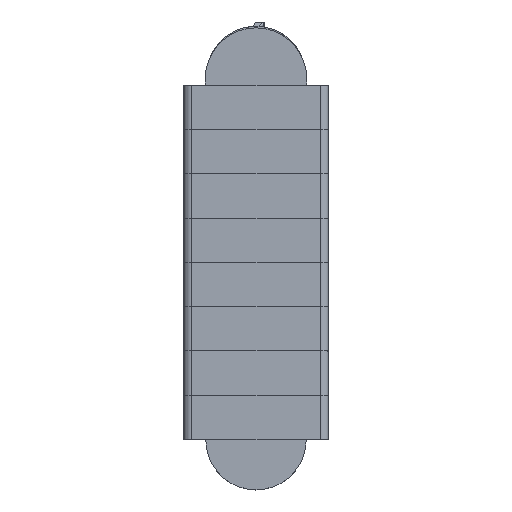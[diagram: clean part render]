
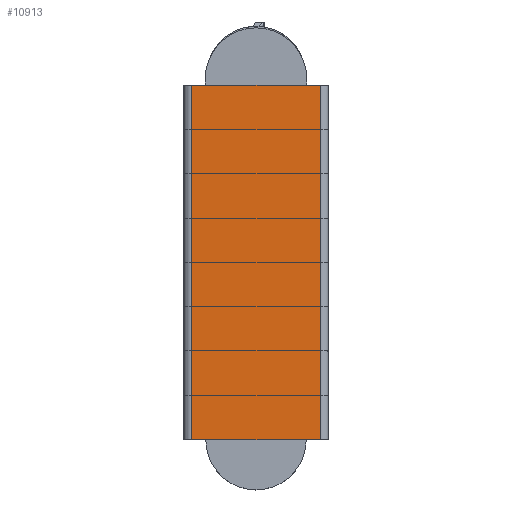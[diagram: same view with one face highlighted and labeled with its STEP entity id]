
A CAD part, top view. The second image highlights one B-rep face of the part: STEP entity #10913.
In plain terms, the highlighted planar face has unit normal (0, 0, 1).
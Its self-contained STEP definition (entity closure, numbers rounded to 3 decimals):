
#121 = CARTESIAN_POINT ( 'NONE',  ( 50.648, 139.7, 46.457 ) ) ;
#1065 = CARTESIAN_POINT ( 'NONE',  ( -50.648, 139.7, 46.457 ) ) ;
#2051 = DIRECTION ( 'NONE',  ( 1., 0., 0. ) ) ;
#2163 = EDGE_CURVE ( 'NONE', #26392, #16196, #21390, .T. ) ;
#2585 = DIRECTION ( 'NONE',  ( 0., -1., 0. ) ) ;
#4081 = ORIENTED_EDGE ( 'NONE', *, *, #21771, .F. ) ;
#4101 = CARTESIAN_POINT ( 'NONE',  ( 50.648, -139.7, 46.457 ) ) ;
#5744 = EDGE_CURVE ( 'NONE', #26392, #15635, #16789, .T. ) ;
#5836 = DIRECTION ( 'NONE',  ( 0., 0., -1. ) ) ;
#6283 = LINE ( 'NONE', #121, #22569 ) ;
#6536 = VECTOR ( 'NONE', #2051, 1000. ) ;
#8535 = LINE ( 'NONE', #24942, #6536 ) ;
#9830 = CARTESIAN_POINT ( 'NONE',  ( -50.648, 139.7, 46.457 ) ) ;
#10585 = DIRECTION ( 'NONE',  ( 0., -1., 0. ) ) ;
#10913 = ADVANCED_FACE ( 'NONE', ( #24877 ), #20058, .F. ) ;
#11694 = AXIS2_PLACEMENT_3D ( 'NONE', #9830, #5836, #26777 ) ;
#11915 = ORIENTED_EDGE ( 'NONE', *, *, #2163, .F. ) ;
#12021 = EDGE_LOOP ( 'NONE', ( #12274, #4081, #11915, #20356 ) ) ;
#12274 = ORIENTED_EDGE ( 'NONE', *, *, #18465, .T. ) ;
#13090 = CARTESIAN_POINT ( 'NONE',  ( -50.648, 139.7, 46.457 ) ) ;
#14731 = CARTESIAN_POINT ( 'NONE',  ( -50.648, 139.7, 46.457 ) ) ;
#15635 = VERTEX_POINT ( 'NONE', #24271 ) ;
#16196 = VERTEX_POINT ( 'NONE', #18200 ) ;
#16789 = LINE ( 'NONE', #14731, #24087 ) ;
#18200 = CARTESIAN_POINT ( 'NONE',  ( 50.648, 139.7, 46.457 ) ) ;
#18465 = EDGE_CURVE ( 'NONE', #15635, #19140, #8535, .T. ) ;
#19140 = VERTEX_POINT ( 'NONE', #4101 ) ;
#20058 = PLANE ( 'NONE',  #11694 ) ;
#20356 = ORIENTED_EDGE ( 'NONE', *, *, #5744, .T. ) ;
#21390 = LINE ( 'NONE', #13090, #26689 ) ;
#21546 = DIRECTION ( 'NONE',  ( 1., 0., 0. ) ) ;
#21771 = EDGE_CURVE ( 'NONE', #16196, #19140, #6283, .T. ) ;
#22569 = VECTOR ( 'NONE', #2585, 1000. ) ;
#24087 = VECTOR ( 'NONE', #10585, 1000. ) ;
#24271 = CARTESIAN_POINT ( 'NONE',  ( -50.648, -139.7, 46.457 ) ) ;
#24877 = FACE_OUTER_BOUND ( 'NONE', #12021, .T. ) ;
#24942 = CARTESIAN_POINT ( 'NONE',  ( -50.648, -139.7, 46.457 ) ) ;
#26392 = VERTEX_POINT ( 'NONE', #1065 ) ;
#26689 = VECTOR ( 'NONE', #21546, 1000. ) ;
#26777 = DIRECTION ( 'NONE',  ( -1., 0., 0. ) ) ;
